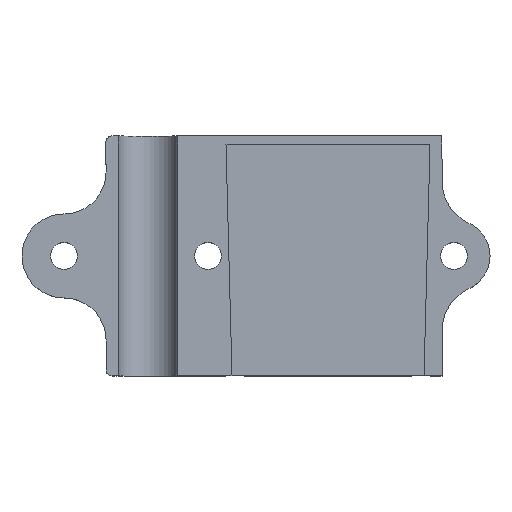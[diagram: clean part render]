
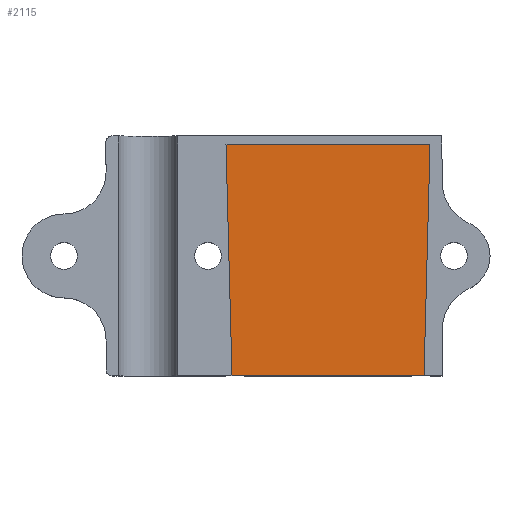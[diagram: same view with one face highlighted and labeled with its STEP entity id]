
A CAD part, top view. The second image highlights one B-rep face of the part: STEP entity #2115.
In plain terms, the highlighted planar face has unit normal (0, 0, 1).
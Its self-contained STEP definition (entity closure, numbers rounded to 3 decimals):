
#1558=CARTESIAN_POINT('',(36.,-60.,5.8));
#1559=VERTEX_POINT('',#1558);
#1566=CARTESIAN_POINT('',(4.,-60.0,5.8));
#1567=VERTEX_POINT('',#1566);
#1568=CARTESIAN_POINT('',(4.,-60.,5.8));
#1569=DIRECTION('',(1.0,0.0,0.0));
#1570=VECTOR('',#1569,32.);
#1571=LINE('',#1568,#1570);
#1572=EDGE_CURVE('',#1567,#1559,#1571,.T.);
#2046=CARTESIAN_POINT('',(3.,-21.5,5.8));
#2047=VERTEX_POINT('',#2046);
#2048=CARTESIAN_POINT('',(3.,-21.5,5.8));
#2049=DIRECTION('',(0.026,-1.,0.0));
#2050=VECTOR('',#2049,38.513);
#2051=LINE('',#2048,#2050);
#2052=EDGE_CURVE('',#2047,#1567,#2051,.T.);
#2070=CARTESIAN_POINT('',(37.0,-21.5,5.8));
#2071=VERTEX_POINT('',#2070);
#2072=CARTESIAN_POINT('',(37.0,-21.5,5.8));
#2073=DIRECTION('',(-1.0,0.0,0.0));
#2074=VECTOR('',#2073,34.0);
#2075=LINE('',#2072,#2074);
#2076=EDGE_CURVE('',#2071,#2047,#2075,.T.);
#2094=CARTESIAN_POINT('',(36.,-60.,5.8));
#2095=DIRECTION('',(0.026,1.,0.0));
#2096=VECTOR('',#2095,38.513);
#2097=LINE('',#2094,#2096);
#2098=EDGE_CURVE('',#1559,#2071,#2097,.T.);
#2104=CARTESIAN_POINT('',(20.,-40.481,5.8));
#2105=DIRECTION('',(0.0,0.0,-1.0));
#2106=DIRECTION('',(1.0,0.0,0.0));
#2107=AXIS2_PLACEMENT_3D('',#2104,#2105,#2106);
#2108=PLANE('',#2107);
#2109=ORIENTED_EDGE('',*,*,#2098,.T.);
#2110=ORIENTED_EDGE('',*,*,#2076,.T.);
#2111=ORIENTED_EDGE('',*,*,#2052,.T.);
#2112=ORIENTED_EDGE('',*,*,#1572,.T.);
#2113=EDGE_LOOP('',(#2109,#2110,#2111,#2112));
#2114=FACE_OUTER_BOUND('',#2113,.T.);
#2115=ADVANCED_FACE('',(#2114),#2108,.F.);
